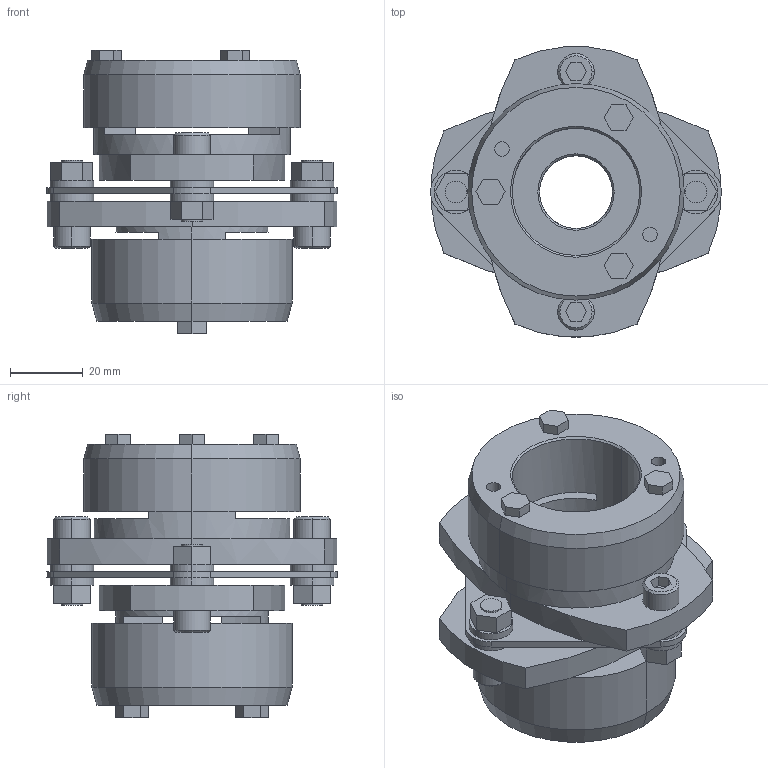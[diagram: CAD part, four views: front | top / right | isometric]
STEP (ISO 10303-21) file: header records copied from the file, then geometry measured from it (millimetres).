
FILE_DESCRIPTION((''),'2;1');
FILE_NAME('LCS-80T7-20×35.stp','2011-09-12T15:32:49',(''),(''),'AutoCAD STEP 2000i','AutoCAD 2000i',', , ');
FILE_SCHEMA(('CONFIG_CONTROL_DESIGN'));
Length unit declared in the file: millimetre
Products named in the file (13): LCS-80T7-19×35; 忣兜1; LC80T7-T035; LC80T7-T032; LC80T7-T030; LC80T7-T028; LC80T7-T024; LC80T7-T022; LC80T7-T019-1; LC80T7-T019; LC80T7-T017-1; LC80T7-T017; LCS80-ITA
Assembly tree (12 placements, depth 2):
  LCS-80T7-19×35
    忣兜1
    LC80T7-T035
    LC80T7-T032
    LC80T7-T030
    LC80T7-T028
    LC80T7-T024
    LC80T7-T022
    LC80T7-T019-1
    LC80T7-T019
    LC80T7-T017-1
    LC80T7-T017
    LCS80-ITA
Bounding box: 80 x 79.95 x 78.05 mm (x, y, z)
Volume: 139079 mm3; surface area: 42403.9 mm2
Topology: 1 solids, 1 shells, 228 faces, 558 edges, 364 vertices
Faces by surface type: plane 128, cylinder 80, cone 20
Entity records: 7033 total; most frequent: DIRECTION 1244, CARTESIAN_POINT 1163, ORIENTED_EDGE 1116, EDGE_CURVE 558, AXIS2_PLACEMENT_3D 445, VERTEX_POINT 364, VECTOR 354, LINE 354
